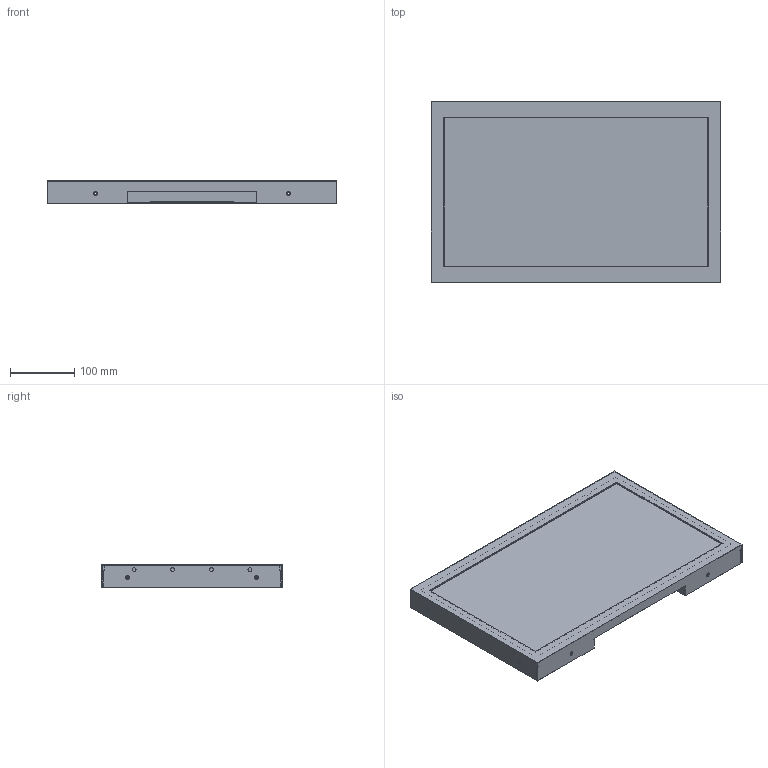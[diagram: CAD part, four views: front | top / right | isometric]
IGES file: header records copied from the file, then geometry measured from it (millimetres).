
Global section: file name: FIE185GM; native system: AutoCAD 2019 – 繁體中文 (Traditional Chinese),62HAutode; preprocessor: sk Translation Framework DWG producer (atf_dwg_producer); organization: unknown; date: 20210622.163252; units: millimetre
Bounding box: 450 x 280 x 35 mm (x, y, z)
Volume: 1227642.6 mm3; surface area: 1185176 mm2
Topology: 9 solids, 10 shells, 1022 faces, 2574 edges, 1713 vertices
Faces by surface type: bspline 1022
